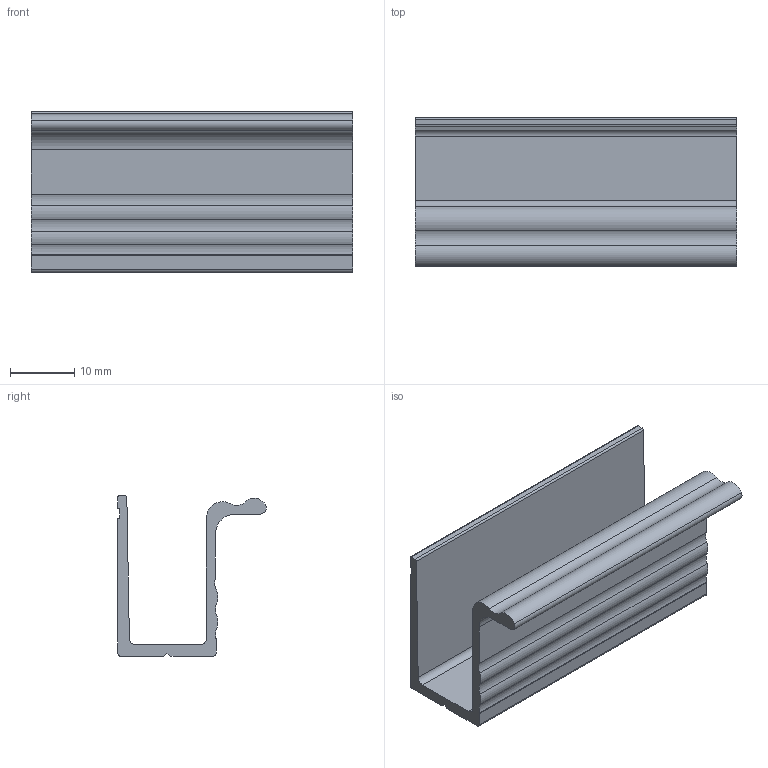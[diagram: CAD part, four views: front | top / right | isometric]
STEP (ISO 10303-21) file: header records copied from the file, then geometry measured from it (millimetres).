
FILE_DESCRIPTION(('CATIA V5 STEP Exchange','CAx-IF Rec.Pracs.--- Model Styling and Organization---1.4--- 2014-01-23'),'2;1');
FILE_NAME('Z:\DRAWINGS\1000\Runner Profile - 2400 mm 1051.stp','2023-09-19T09:24:36+00:00',('none'),('none'),'CATIA Version 5-6 Release 2019','3DEXPERIENCE Platform STEP AP214 v1','none');
FILE_SCHEMA(('AUTOMOTIVE_DESIGN { 1 0 10303 214 1 1 1 1 }'));
Length unit declared in the file: millimetre
Products named in the file (1): Part110
Bounding box: 50 x 23.1 x 25 mm (x, y, z)
Volume: 5638 mm3; surface area: 7088.2 mm2
Topology: 1 solids, 1 shells, 39 faces, 111 edges, 74 vertices
Faces by surface type: cylinder 23, plane 16
Entity records: 1256 total; most frequent: CARTESIAN_POINT 223, ORIENTED_EDGE 222, DIRECTION 185, EDGE_CURVE 111, AXIS2_PLACEMENT_3D 84, VERTEX_POINT 74, VECTOR 65, LINE 65
